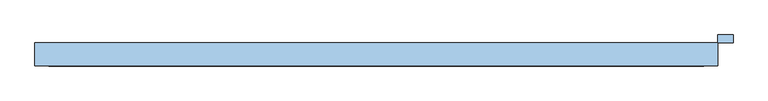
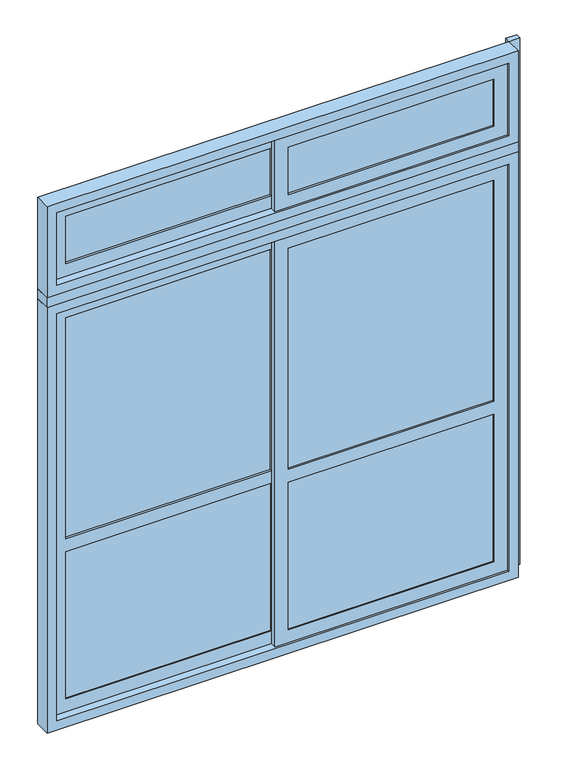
"""IFC4 building model written with IfcOpenShell, lengths in millimetres: window geometry, A7 Ventana_Corrediza_PC_2 hojas : A7.3 Ventana_Corrediza_PC_2 hojas 220x260."""

from ifc_helpers import new_model, si_unit, frame, origin, origin_with_axes, place, context, project, spatial, polyline, outline, extrude, source, transform, mapped, element, save


def window_c2d00e38(model_context):
    return source(origin(), model_context, "Body", "SweptSolid", [
        extrude(outline(polyline([(-31.5, -28.0), (-31.5, -44.0), (-992.0, -44.0), (-992.0, -28.0), (-31.5, -28.0)])), frame((0.0, 0.0, 108.0), z_axis=(0.0, 0.0, 1.0), x_axis=(1.0, 0.0, 0.0)), (0.0, 0.0, 1.0), 728.0),
        extrude(outline(polyline([(992.0, -56.0), (992.0, -72.0), (31.5, -72.0), (31.5, -56.0), (992.0, -56.0)])), frame((0.0, 0.0, 108.0), z_axis=(0.0, 0.0, 1.0), x_axis=(1.0, 0.0, 0.0)), (0.0, 0.0, 1.0), 728.0),
        extrude(outline(polyline([(-31.5, -31.5769719), (-31.5, -40.4230281), (-992.0, -40.4230281), (-992.0, -31.5769719), (-31.5, -31.5769719)])), frame((0.0, 0.0, 900.0), z_axis=(0.0, 0.0, 1.0), x_axis=(1.0, 0.0, 0.0)), (0.0, 0.0, 1.0), 1092.0),
        extrude(outline(polyline([(-31.5, -31.5769719), (-31.5, -40.4230281), (-992.0, -40.4230281), (-992.0, -31.5769719), (-31.5, -31.5769719)])), frame((0.0, 0.0, 2258.0), z_axis=(0.0, 0.0, 1.0), x_axis=(1.0, 0.0, 0.0)), (0.0, 0.0, 1.0), 234.0),
        extrude(outline(polyline([(992.0, -59.5769719), (992.0, -68.4230281), (31.5, -68.4230281), (31.5, -59.5769719), (992.0, -59.5769719)])), frame((0.0, 0.0, 900.0), z_axis=(0.0, 0.0, 1.0), x_axis=(1.0, 0.0, 0.0)), (0.0, 0.0, 1.0), 1092.0),
        extrude(outline(polyline([(992.0, -59.5769719), (992.0, -68.4230281), (31.5, -68.4230281), (31.5, -59.5769719), (992.0, -59.5769719)])), frame((0.0, 0.0, 2258.0), z_axis=(0.0, 0.0, 1.0), x_axis=(1.0, 0.0, 0.0)), (0.0, 0.0, 1.0), 234.0),
        extrude(outline(polyline([(45.0, -1055.0), (45.0, 31.5), (2055.0, 31.5), (2055.0, -1055.0), (45.0, -1055.0)]), holes=[polyline([(900.0, -992.0), (1992.0, -992.0), (1992.0, -31.5), (900.0, -31.5), (900.0, -992.0)]), polyline([(108.0, -992.0), (836.0, -992.0), (836.0, -31.5), (108.0, -31.5), (108.0, -992.0)])]), frame((0.0, -50.0, 0.0), z_axis=(0.0, 1.0, 0.0), x_axis=(0.0, 0.0, 1.0)), (0.0, 0.0, 1.0), 28.0),
        extrude(outline(polyline([(2555.0, -1055.0), (2195.0, -1055.0), (2195.0, 31.5), (2555.0, 31.5), (2555.0, -1055.0)]), holes=[polyline([(2258.0, -992.0), (2492.0, -992.0), (2492.0, -31.5), (2258.0, -31.5), (2258.0, -992.0)])]), frame((0.0, -50.0, 0.0), z_axis=(0.0, 1.0, 0.0), x_axis=(0.0, 0.0, 1.0)), (0.0, 0.0, 1.0), 28.0),
        extrude(outline(polyline([(2055.0, 1055.0), (2055.0, -31.5), (45.0, -31.5), (45.0, 1055.0), (2055.0, 1055.0)]), holes=[polyline([(1992.0, 31.5), (1992.0, 992.0), (900.0, 992.0), (900.0, 31.5), (1992.0, 31.5)]), polyline([(836.0, 31.5), (836.0, 992.0), (108.0, 992.0), (108.0, 31.5), (836.0, 31.5)])]), frame((0.0, -78.0, 0.0), z_axis=(0.0, 1.0, 0.0), x_axis=(0.0, 0.0, 1.0)), (0.0, 0.0, 1.0), 28.0),
        extrude(outline(polyline([(2195.0, -31.5), (2195.0, 1055.0), (2555.0, 1055.0), (2555.0, -31.5), (2195.0, -31.5)]), holes=[polyline([(2492.0, 31.5), (2492.0, 992.0), (2258.0, 992.0), (2258.0, 31.5), (2492.0, 31.5)])]), frame((0.0, -78.0, 0.0), z_axis=(0.0, 1.0, 0.0), x_axis=(0.0, 0.0, 1.0)), (0.0, 0.0, 1.0), 28.0),
        extrude(outline(polyline([(2100.0, -1100.0), (0.0, -1100.0), (0.0, 1100.0), (2100.0, 1100.0), (2100.0, -1100.0)]), holes=[polyline([(2055.0, -1055.0), (2055.0, 1055.0), (45.0, 1055.0), (45.0, -1055.0), (2055.0, -1055.0)])]), frame((0.0, -87.5, 0.0), z_axis=(0.0, 1.0, 0.0), x_axis=(0.0, 0.0, 1.0)), (0.0, 0.0, 1.0), 75.0),
        extrude(outline(polyline([(2600.0, -1100.0), (2150.0, -1100.0), (2150.0, 1100.0), (2600.0, 1100.0), (2600.0, -1100.0)]), holes=[polyline([(2555.0, -1055.0), (2555.0, 1055.0), (2195.0, 1055.0), (2195.0, -1055.0), (2555.0, -1055.0)])]), frame((0.0, -87.5, 0.0), z_axis=(0.0, 1.0, 0.0), x_axis=(0.0, 0.0, 1.0)), (0.0, 0.0, 1.0), 75.0),
        extrude(outline(polyline([(1100.0, -12.5), (1100.0, -87.5), (-1100.0, -87.5), (-1100.0, -12.5), (1100.0, -12.5)])), frame((0.0, 0.0, 2100.0), z_axis=(0.0, 0.0, 1.0), x_axis=(1.0, 0.0, 0.0)), (0.0, 0.0, 1.0), 50.0),
        extrude(outline(polyline([(1150.0, 12.5), (1150.0, -12.5), (1100.0, -12.5), (1100.0, 12.5), (1150.0, 12.5)])), origin_with_axes(), (0.0, 0.0, 1.0), 2600.0),
    ])


if __name__ == "__main__":
    model = new_model("IFC4")
    model_context = context("Model", 3, world=origin())
    ifc_project = project(units=[si_unit("LENGTHUNIT", "METRE", prefix="MILLI")], contexts=[model_context])
    site = spatial("IfcSite", under=ifc_project)
    building = spatial("IfcBuilding", under=site)
    placement = place(None, origin())
    window_shape = window_c2d00e38(model_context)
    element("IfcWindow", 1, ObjectType="A7 Ventana_Corrediza_PC_2 hojas : A7.3 Ventana_Corrediza_PC_2 hojas 220x260", at=placement, inside=building, context=model_context, shape_type="MappedRepresentation", body=[
        mapped(window_shape, transform((0.0, 0.0, 0.0), x_axis=(1.0, 0.0, 0.0), y_axis=(0.0, 1.0, 0.0), z_axis=(0.0, 0.0, 1.0))),
    ])
    save(model, "model.ifc")
